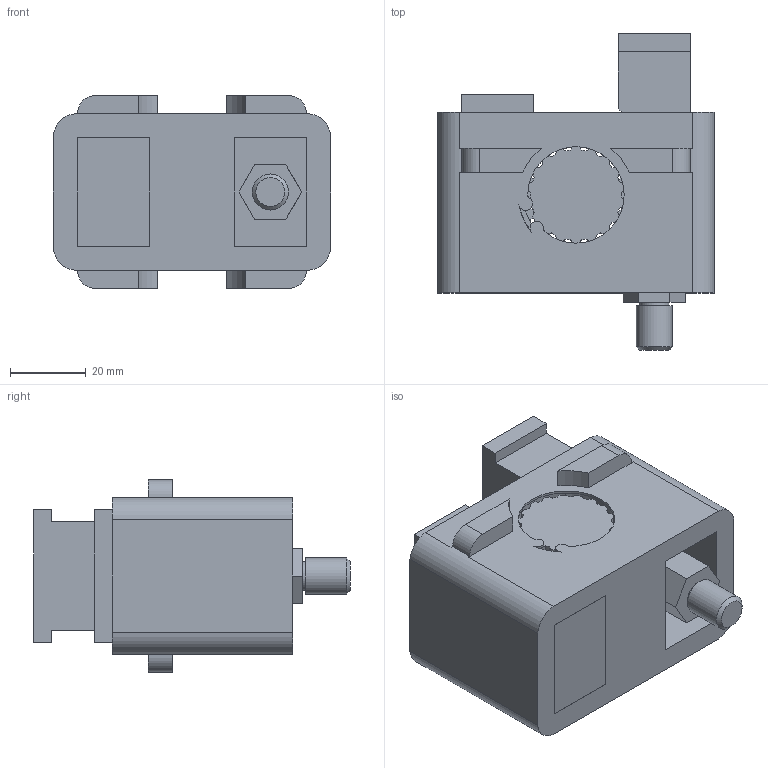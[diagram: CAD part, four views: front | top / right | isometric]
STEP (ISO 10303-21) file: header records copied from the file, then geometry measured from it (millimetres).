
FILE_DESCRIPTION(/* description */ ('STEP AP214'),/* implementation_level */ '2;1');
FILE_NAME(/* name */ 'AEB-20',/* time_stamp */ '2024-12-19T08:08:55+01:00',/* author */ ('License CC BY-ND 4.0'),/* organization */ ('CADENAS'),/* preprocessor_version */ 'ST-DEVELOPER v19.3',/* originating_system */ 'PARTsolutions',/* authorisation */ ' ');
FILE_SCHEMA (('AUTOMOTIVE_DESIGN {1 0 10303 214 3 1 1}'));
Length unit declared in the file: inch
Products named in the file (5): AEB-20; AEB-201; AEB-202; AEB-203; AEB-204
Assembly tree (4 placements, depth 2):
  AEB-20
    AEB-201
    AEB-202
    AEB-203
    AEB-204
Bounding box: 73.03 x 83.41 x 50.77 mm (x, y, z)
Volume: 148910.8 mm3; surface area: 44090.9 mm2
Topology: 4 solids, 4 shells, 238 faces, 683 edges, 455 vertices
Faces by surface type: plane 171, cylinder 65, cone 2
Full cylindrical faces by diameter (mm): 7.633 x1, 9.525 x1, 14.275 x1, 27.94 x1, 30.48 x2
Entity records: 7836 total; most frequent: CARTESIAN_POINT 1402, ORIENTED_EDGE 1336, DIRECTION 1291, EDGE_CURVE 668, LINE 503, VECTOR 503, VERTEX_POINT 449, AXIS2_PLACEMENT_3D 394
